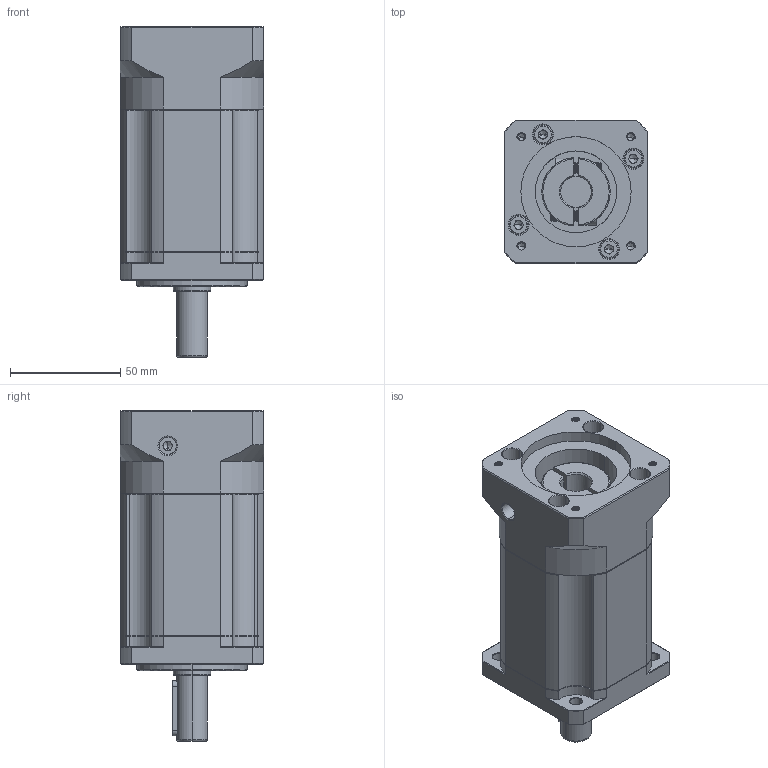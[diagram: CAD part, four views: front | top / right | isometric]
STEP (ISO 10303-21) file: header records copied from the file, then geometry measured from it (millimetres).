
FILE_DESCRIPTION (( 'STEP AP214' ), '1' );
FILE_NAME ('ZB060-D14-L3-P2-14-50-70-M4.step', '2023-08-16T07:02:53', ( '' ), ( '' ), 'SwSTEP 2.0', 'SolidWorks 2016', '' );
FILE_SCHEMA (( 'AUTOMOTIVE_DESIGN' ));
Length unit declared in the file: millimetre
Products named in the file (1): ZB060-D14-L3-P2-14-50-70-M4
Bounding box: 65 x 65 x 150 mm (x, y, z)
Volume: 389630.5 mm3; surface area: 62436.3 mm2
Topology: 6 solids, 6 shells, 2152 faces, 5796 edges, 3732 vertices
Faces by surface type: plane 1059, bspline 397, cylinder 381, cone 279, torus 36
Entity records: 114702 total; most frequent: CARTESIAN_POINT 40149, ORIENTED_EDGE 11532, DIRECTION 9082, EDGE_CURVE 5766, VERTEX_POINT 3732, LINE 3632, VECTOR 3632, AXIS2_PLACEMENT_3D 2725
